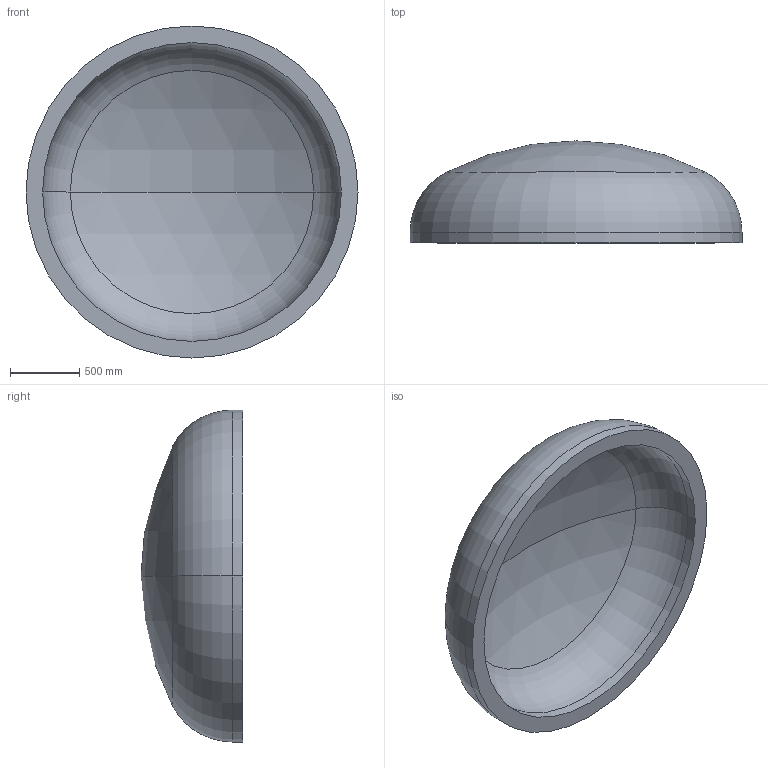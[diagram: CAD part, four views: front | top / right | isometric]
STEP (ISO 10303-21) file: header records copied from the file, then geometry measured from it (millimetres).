
FILE_DESCRIPTION (( 'STEP AP203' ), '1' );
FILE_NAME ('DIN 28013 Korbbogenform_-_Boden DIN 28013 - 2400 x 75 - I - s=120.step', '2016-07-01T15:48:01', ( '' ), ( '' ), 'SwSTEP 2.0', 'SolidWorks 2013', '' );
FILE_SCHEMA (( 'CONFIG_CONTROL_DESIGN' ));
Length unit declared in the file: millimetre
Products named in the file (1): DIN 28013 Korbbogenform_-_Boden DIN 28013 - 2400 x 75 - I - s=120
Bounding box: 2400 x 737.18 x 2400 mm (x, y, z)
Volume: 769695397.9 mm3; surface area: 13717952 mm2
Topology: 1 solids, 1 shells, 13 faces, 24 edges, 14 vertices
Faces by surface type: torus 4, cylinder 4, sphere 4, plane 1
Entity records: 407 total; most frequent: DIRECTION 72, CARTESIAN_POINT 52, ORIENTED_EDGE 48, AXIS2_PLACEMENT_3D 34, EDGE_CURVE 24, CIRCLE 20, VERTEX_POINT 14, EDGE_LOOP 14
